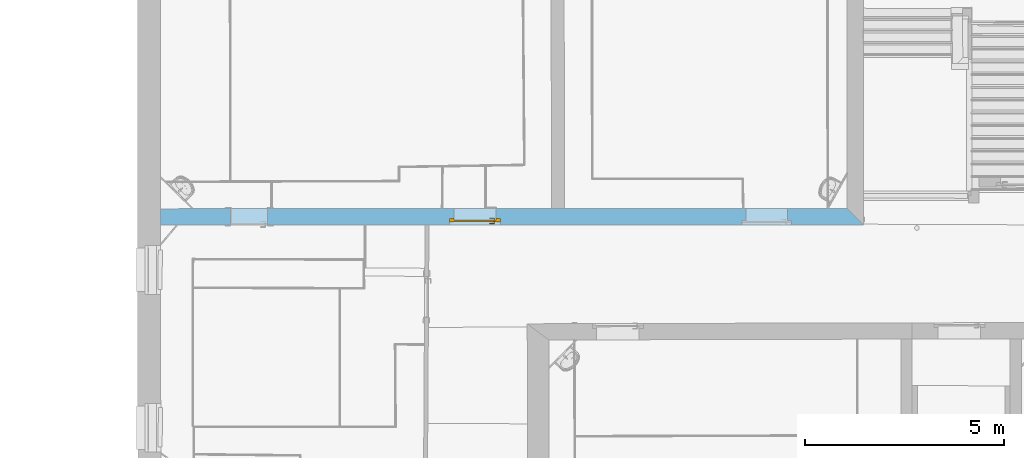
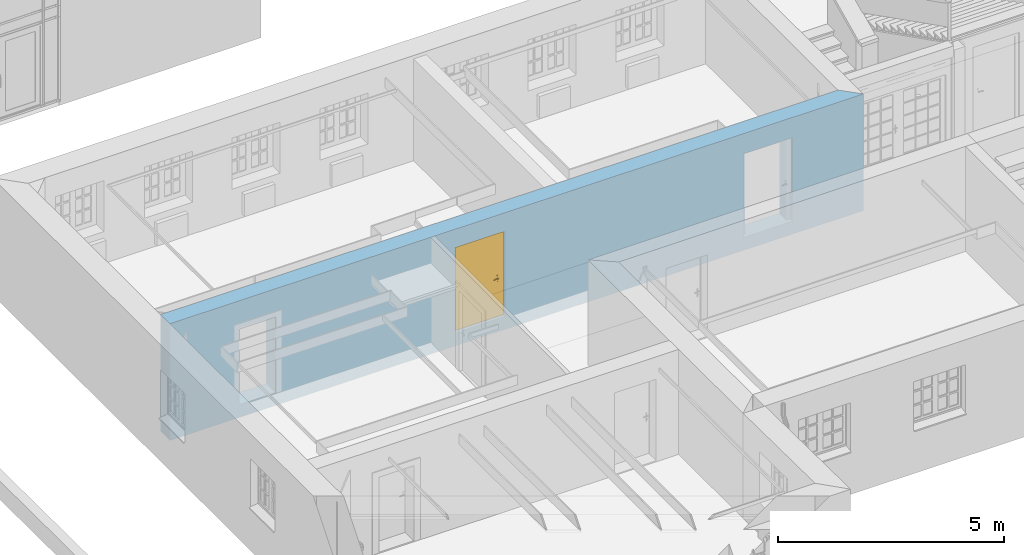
# One storey, part 74 of 196: 1 door, 3 openings, plus 1 element that does not belong to this part.
"""IFC2X3 building model written with IfcOpenShell, lengths in metres."""

from ifc_helpers import new_model, entity, si_unit, converted_unit, derived_unit, money_unit, direction, frame, origin_with_axes, origin_2d_with_axis, place, context, subcontext, project, spatial, polyline, rectangle, outline, extrude, faceted_brep, material, layer, layer_set, layer_usage, type_object, element, fill, save


model = new_model("IFC2X3")

# Units and contexts
model_context = context("Model", 3, precision=1e-05, world=origin_with_axes(), true_north=direction((0.0, 1.0)))
body_context = subcontext(model_context, "Body", "Model", "MODEL_VIEW")
ifc_project = project(units=[si_unit("LENGTHUNIT", "METRE"), si_unit("AREAUNIT", "SQUARE_METRE"), si_unit("VOLUMEUNIT", "CUBIC_METRE"), converted_unit("PLANEANGLEUNIT", "DEGREE", entity("IfcPlaneAngleMeasure", 0.0174532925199), si_unit("PLANEANGLEUNIT", "RADIAN"), dimensions=[0, 0, 0, 0, 0, 0, 0]), money_unit("EUR"), converted_unit("TIMEUNIT", "Year", entity("IfcTimeMeasure", 31556926.0), si_unit("TIMEUNIT", "SECOND"), dimensions=[0, 0, 1, 0, 0, 0, 0]), si_unit("MASSUNIT", "GRAM", prefix="KILO"), si_unit("THERMODYNAMICTEMPERATUREUNIT", "DEGREE_CELSIUS"), si_unit("LUMINOUSINTENSITYUNIT", "LUMEN"), si_unit("ENERGYUNIT", "JOULE", prefix="MEGA"), derived_unit("THERMALCONDUCTANCEUNIT", [(si_unit("POWERUNIT", "WATT"), 1), (si_unit("LENGTHUNIT", "METRE"), -1), (si_unit("THERMODYNAMICTEMPERATUREUNIT", "KELVIN"), -1)]), derived_unit("SPECIFICHEATCAPACITYUNIT", [(si_unit("ENERGYUNIT", "JOULE"), 1), (si_unit("MASSUNIT", "GRAM", prefix="KILO"), -1), (si_unit("THERMODYNAMICTEMPERATUREUNIT", "KELVIN"), -1)]), derived_unit("MASSDENSITYUNIT", [(si_unit("MASSUNIT", "GRAM", prefix="KILO"), 1), (si_unit("VOLUMEUNIT", "CUBIC_METRE"), -1)])], contexts=[model_context])

# Site, building, storey
site_placement = place(None, origin_with_axes())
site = spatial("IfcSite", under=ifc_project, at=site_placement, Name="Gelände", CompositionType="ELEMENT")
building_placement = place(site_placement, origin_with_axes())
building = spatial("IfcBuilding", under=site, at=building_placement, Name="Gebäude", CompositionType="ELEMENT")
storey_placement = place(building_placement, frame((0.0, 0.0, -3.0), z_axis=(0.0, 0.0, 1.0), x_axis=(1.0, 0.0, 0.0)))
storey = spatial("IfcBuildingStorey", under=building, at=storey_placement, Name="KELLERGESCHOSS", CompositionType="ELEMENT", Elevation=-3.0)

# Wall, openings, door
ifc_material = material(Name="05_ALLGEMEIN - TRAGENDE BAUTEILE")
ifc_layer = layer(ifc_material, 0.41, ventilated="UNKNOWN")
ifc_layer_set = layer_set([ifc_layer], Name="05_ALLGEMEIN - TRAGENDE BAUTEILE 0.41")
ifc_layer_usage = layer_usage(ifc_layer_set, "AXIS2", "POSITIVE", -0.41)
wall_type = type_object("IfcWallType", Name="05_ALLGEMEIN - TRAGENDE BAUTEILE 410", PredefinedType="ELEMENTEDWALL")
wall_placement = place(storey_placement, frame((-9.84148103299, 19.2659840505, -0.36), z_axis=(0.0, 0.0, 1.0), x_axis=(-0.999999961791, -0.000276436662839, 0.0)))
wall = element("IfcWallStandardCase", 1, at=wall_placement, inside=storey, type_object=wall_type, material=ifc_layer_usage, Name="Wand-036", ObjectType="ELEMENTEDWALL", context=body_context, shape_type="SweptSolid", body=[
    extrude(outline(polyline([(0.409925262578, -0.41), (17.7008366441, -0.41), (17.7005669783, 0.0), (0.0, 0.0), (0.409925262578, -0.41)])), origin_with_axes(), (0.0, 0.0, 1.0), 3.15),
])
opening_1_placement = place(wall_placement, frame((2.43435271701, 0.0, 0.34905591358), z_axis=(0.0, 0.0, 1.0), x_axis=(1.0, 0.0, 0.0)))
element("IfcOpeningElement", 2, at=opening_1_placement, cuts=wall, Name="Tür-022", context=body_context, shape_type="SweptSolid", body=[
    extrude(rectangle(XDim=1.05378116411, YDim=2.159205, at=origin_2d_with_axis()), frame((0.0, -0.11, 1.0796025), z_axis=(0.0, 1.0, 0.0), x_axis=(1.0, 0.0, 0.0)), (0.0, 0.0, -1.0), 0.71),
    extrude(rectangle(XDim=1.25378116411, YDim=2.259205, at=origin_2d_with_axis()), frame((0.0, -0.05, 1.1296025), z_axis=(0.0, -1.0, 0.0), x_axis=(1.0, 0.0, 0.0)), (0.0, 0.0, 1.0), 0.06),
    extrude(rectangle(XDim=1.25378116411, YDim=2.259205, at=origin_2d_with_axis()), frame((0.0, -0.05, 1.1296025), z_axis=(0.0, -1.0, 0.0), x_axis=(1.0, 0.0, 0.0)), (0.0, 0.0, -1.0), 0.46),
])
opening_2_placement = place(wall_placement, frame((9.78109364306, 0.0, 0.347304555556), z_axis=(0.0, 0.0, 1.0), x_axis=(1.0, 0.0, 0.0)))
opening_2 = element("IfcOpeningElement", 3, at=opening_2_placement, cuts=wall, Name="Tür-022", context=body_context, shape_type="SweptSolid", body=[
    extrude(rectangle(XDim=1.06444475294, YDim=2.200287, at=origin_2d_with_axis()), frame((0.0, -0.16, 1.1001435), z_axis=(0.0, 1.0, 0.0), x_axis=(1.0, 0.0, 0.0)), (0.0, 0.0, -1.0), 0.66),
    extrude(rectangle(XDim=1.28444475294, YDim=2.310287, at=origin_2d_with_axis()), frame((0.0, -0.08, 1.1551435), z_axis=(0.0, -1.0, 0.0), x_axis=(1.0, 0.0, 0.0)), (0.0, 0.0, -1.0), 0.49),
    extrude(rectangle(XDim=1.28444475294, YDim=2.310287, at=origin_2d_with_axis()), frame((0.0, -0.08, 1.1551435), z_axis=(0.0, -1.0, 0.0), x_axis=(1.0, 0.0, 0.0)), (0.0, 0.0, 1.0), 0.08),
])
opening_3_placement = place(wall_placement, frame((15.4703837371, 0.0, 0.347765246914), z_axis=(0.0, 0.0, 1.0), x_axis=(1.0, 0.0, 0.0)))
element("IfcOpeningElement", 4, at=opening_3_placement, cuts=wall, Name="Tür-022", context=body_context, shape_type="SweptSolid", body=[
    extrude(rectangle(XDim=0.929114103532, YDim=2.063068, at=origin_2d_with_axis()), frame((0.0, -0.41, 1.031534), z_axis=(0.0, 1.0, 0.0), x_axis=(1.0, 0.0, 0.0)), (0.0, 0.0, 1.0), 1.23),
])
door_style = type_object("IfcDoorStyle", Name="Blockrahmentür 1-Fl 25", ConstructionType="NOTDEFINED", OperationType="SINGLE_SWING_RIGHT", ParameterTakesPrecedence=False, Sizeable=False)
door_placement = place(opening_2_placement, frame((-0.532222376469, 0.0, 0.0), z_axis=(0.0, 0.0, 1.0), x_axis=(1.0, 0.0, 0.0)))
door = element("IfcDoor", 5, at=door_placement, inside=storey, type_object=door_style, Name="Tür-022", ObjectType="NOTDEFINED", OverallHeight=2.31029, OverallWidth=1.28444, context=body_context, shape_type="Brep", body=[
    faceted_brep([(1.17444475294, -0.16, 0.0), (1.17444475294, -0.12, 0.0), (1.17444475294, -0.12, 2.310287), (1.17444475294, -0.16, 2.310287), (1.06444475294, -0.16, 0.0), (1.06444475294, -0.12, 0.0), (1.06444475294, -0.12, 2.200287), (0.644322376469, -0.12, 2.200287), (0.532322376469, -0.12, 2.200287), (0.0, -0.12, 2.200287), (0.0, -0.12, 0.0), (-0.11, -0.12, 0.0), (-0.11, -0.12, 2.310287), (-0.11, -0.16, 2.310287), (-0.11, -0.16, 0.0), (0.0, -0.16, 0.0), (0.0, -0.16, 2.200287), (0.532322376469, -0.16, 2.200287), (0.644322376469, -0.16, 2.200287), (1.06444475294, -0.16, 2.200287)], [[[0, 1, 2, 3]], [[4, 5, 1, 0]], [[1, 5, 6, 7, 8, 9, 10, 11, 12, 2]], [[3, 2, 12, 13]], [[0, 3, 13, 14, 15, 16, 17, 18, 19, 4]], [[19, 6, 5, 4]], [[18, 7, 6, 19]], [[17, 8, 7, 18]], [[16, 9, 8, 17]], [[15, 10, 9, 16]], [[14, 11, 10, 15]], [[13, 12, 11, 14]]]),
    faceted_brep([(1.17444475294, -0.12, 0.0), (1.17444475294, -0.08, 0.0), (1.17444475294, -0.08, 2.310287), (1.17444475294, -0.12, 2.310287), (1.07644475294, -0.12, 0.0), (1.07644475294, -0.08, 0.0), (1.07644475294, -0.08, 2.212287), (0.632322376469, -0.08, 2.212287), (0.544322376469, -0.08, 2.212287), (-0.012, -0.08, 2.212287), (-0.012, -0.08, 0.0), (-0.11, -0.08, 0.0), (-0.11, -0.08, 2.310287), (-0.11, -0.12, 2.310287), (-0.11, -0.12, 0.0), (-0.012, -0.12, 0.0), (-0.012, -0.12, 2.212287), (0.544322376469, -0.12, 2.212287), (0.632322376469, -0.12, 2.212287), (1.07644475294, -0.12, 2.212287)], [[[0, 1, 2, 3]], [[4, 5, 1, 0]], [[1, 5, 6, 7, 8, 9, 10, 11, 12, 2]], [[3, 2, 12, 13]], [[0, 3, 13, 14, 15, 16, 17, 18, 19, 4]], [[19, 6, 5, 4]], [[18, 7, 6, 19]], [[17, 8, 7, 18]], [[16, 9, 8, 17]], [[15, 10, 9, 16]], [[14, 11, 10, 15]], [[13, 12, 11, 14]]]),
    faceted_brep([(1.07644475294, -0.084, 0.0), (-0.012, -0.084, 0.0), (-0.012, -0.084, 2.212287), (1.07644475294, -0.084, 2.212287), (1.07644475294, -0.12, 0.0), (-0.012, -0.12, 0.0), (-0.012, -0.12, 2.212287), (1.07644475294, -0.12, 2.212287)], [[[0, 1, 2, 3]], [[1, 0, 4, 5]], [[2, 1, 5, 6]], [[3, 2, 6, 7]], [[0, 3, 7, 4]], [[5, 4, 7, 6]]]),
    faceted_brep([(0.0432977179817, -0.16, 1.05647213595), (0.048, -0.16, 1.058), (0.048, -0.14, 1.058), (0.0432977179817, -0.14, 1.05647213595), (0.0403915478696, -0.16, 1.05247213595), (0.0403915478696, -0.16, 1.04752786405), (0.0432977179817, -0.16, 1.04352786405), (0.048, -0.16, 1.042), (0.0527022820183, -0.16, 1.04352786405), (0.0556084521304, -0.16, 1.04752786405), (0.0556084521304, -0.16, 1.05247213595), (0.0527022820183, -0.16, 1.05647213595), (0.0527022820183, -0.14, 1.05647213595), (0.048, -0.138, 1.06), (0.0421221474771, -0.138, 1.05809016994), (0.0403915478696, -0.14, 1.05247213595), (0.0403915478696, -0.14, 1.04752786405), (0.0432977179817, -0.14, 1.04352786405), (0.048, -0.14, 1.042), (0.0527022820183, -0.14, 1.04352786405), (0.0556084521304, -0.14, 1.04752786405), (0.0556084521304, -0.14, 1.05247213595), (0.0538778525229, -0.138, 1.05809016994), (0.048, -0.13, 1.06), (0.0421221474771, -0.13, 1.05809016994), (0.038489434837, -0.138, 1.05309016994), (0.038489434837, -0.138, 1.04690983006), (0.0421221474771, -0.138, 1.04190983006), (0.048, -0.138, 1.04), (0.0538778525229, -0.138, 1.04190983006), (0.057510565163, -0.138, 1.04690983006), (0.057510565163, -0.138, 1.05309016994), (0.0538778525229, -0.13, 1.05809016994), (0.0575105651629, -0.13, 1.05309016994), (0.0575105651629, -0.13, 1.04690983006), (0.0538778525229, -0.13, 1.04190983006), (0.048, -0.13, 1.04), (0.0421221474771, -0.13, 1.04190983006), (0.038489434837, -0.13, 1.04690983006), (0.038489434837, -0.13, 1.05309016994)], [[[0, 1, 2, 3]], [[1, 0, 4, 5, 6, 7, 8, 9, 10, 11]], [[1, 11, 12, 2]], [[3, 2, 13, 14]], [[4, 0, 3, 15]], [[5, 4, 15, 16]], [[6, 5, 16, 17]], [[7, 6, 17, 18]], [[8, 7, 18, 19]], [[9, 8, 19, 20]], [[10, 9, 20, 21]], [[11, 10, 21, 12]], [[2, 12, 22, 13]], [[14, 13, 23, 24]], [[15, 3, 14, 25]], [[16, 15, 25, 26]], [[17, 16, 26, 27]], [[18, 17, 27, 28]], [[19, 18, 28, 29]], [[20, 19, 29, 30]], [[21, 20, 30, 31]], [[12, 21, 31, 22]], [[13, 22, 32, 23]], [[23, 32, 33, 34, 35, 36, 37, 38, 39, 24]], [[25, 14, 24, 39]], [[26, 25, 39, 38]], [[27, 26, 38, 37]], [[28, 27, 37, 36]], [[29, 28, 36, 35]], [[30, 29, 35, 34]], [[31, 30, 34, 33]], [[22, 31, 33, 32]]]),
    faceted_brep([(0.0601883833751, -0.13, 1.11759695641), (0.0524435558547, -0.13, 1.12195567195), (0.0435564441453, -0.13, 1.12195567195), (0.0358116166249, -0.13, 1.11759695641), (0.0312, -0.13, 1.11), (0.0255, -0.13, 1.11), (0.0255, -0.13, 0.89), (0.0312, -0.13, 0.89), (0.0358116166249, -0.13, 0.882403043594), (0.0435564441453, -0.13, 0.878044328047), (0.0524435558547, -0.13, 0.878044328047), (0.0601883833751, -0.13, 0.882403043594), (0.0648, -0.13, 0.89), (0.0705, -0.13, 0.89), (0.0705, -0.13, 1.11), (0.0648, -0.13, 1.11), (0.048, -0.13, 0.967425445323), (0.0533751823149, -0.13, 0.965143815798), (0.0554678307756, -0.13, 0.959692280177), (0.053, -0.13, 0.9544), (0.053, -0.13, 0.9375), (0.0515355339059, -0.13, 0.933964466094), (0.048, -0.13, 0.9325), (0.0444644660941, -0.13, 0.933964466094), (0.043, -0.13, 0.9375), (0.043, -0.13, 0.9544), (0.0405321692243, -0.13, 0.959692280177), (0.042624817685, -0.13, 0.965143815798), (0.0601883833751, -0.12, 1.11759695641), (0.0524435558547, -0.12, 1.12195567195), (0.0435564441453, -0.12, 1.12195567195), (0.0358116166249, -0.12, 1.11759695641), (0.0312, -0.12, 1.11), (0.0255, -0.12, 1.11), (0.0255, -0.12, 0.89), (0.0312, -0.12, 0.89), (0.0358116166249, -0.12, 0.882403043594), (0.0435564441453, -0.12, 0.878044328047), (0.0524435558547, -0.12, 0.878044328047), (0.0601883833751, -0.12, 0.882403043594), (0.0648, -0.12, 0.89), (0.0705, -0.12, 0.89), (0.0705, -0.12, 1.11), (0.0648, -0.12, 1.11), (0.048, -0.12, 0.967425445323), (0.053375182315, -0.12, 0.965143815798), (0.0554678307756, -0.12, 0.959692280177), (0.053, -0.12, 0.9544), (0.053, -0.12, 0.9375), (0.0515355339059, -0.12, 0.933964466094), (0.048, -0.12, 0.9325), (0.0444644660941, -0.12, 0.933964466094), (0.043, -0.12, 0.9375), (0.043, -0.12, 0.9544), (0.0405321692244, -0.12, 0.959692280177), (0.042624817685, -0.12, 0.965143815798)], [[[0, 1, 2, 3, 4, 5, 6, 7, 8, 9, 10, 11, 12, 13, 14, 15], [16, 17, 18, 19, 20, 21, 22, 23, 24, 25, 26, 27]], [[1, 0, 28, 29]], [[2, 1, 29, 30]], [[3, 2, 30, 31]], [[4, 3, 31, 32]], [[5, 4, 32, 33]], [[6, 5, 33, 34]], [[7, 6, 34, 35]], [[8, 7, 35, 36]], [[9, 8, 36, 37]], [[10, 9, 37, 38]], [[11, 10, 38, 39]], [[12, 11, 39, 40]], [[13, 12, 40, 41]], [[14, 13, 41, 42]], [[15, 14, 42, 43]], [[0, 15, 43, 28]], [[17, 16, 44, 45]], [[18, 17, 45, 46]], [[19, 18, 46, 47]], [[19, 47, 48, 20]], [[20, 48, 49, 21]], [[21, 49, 50, 22]], [[22, 50, 51, 23]], [[23, 51, 52, 24]], [[53, 25, 24, 52]], [[26, 25, 53, 54]], [[27, 26, 54, 55]], [[16, 27, 55, 44]], [[40, 39, 38, 37, 36, 35, 34, 33, 32, 31, 30, 29, 28, 43, 42, 41], [54, 53, 52, 51, 50, 49, 48, 47, 46, 45, 44, 55]]]),
    faceted_brep([(0.162253, -0.16, 1.057158), (0.162253, -0.175, 1.057158), (0.162254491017, -0.175, 1.05719388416), (0.162254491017, -0.16, 1.05719388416), (0.135225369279, -0.16, 1.06432652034), (0.135225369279, -0.175, 1.06432652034), (0.107397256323, -0.175, 1.06706086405), (0.0794912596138, -0.175, 1.06529002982), (0.052232, -0.175, 1.05906), (0.0458294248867, -0.175, 1.05976125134), (0.0403273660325, -0.175, 1.05641280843), (0.0380084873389, -0.175, 1.05040385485), (0.0398348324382, -0.175, 1.04422735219), (0.0450486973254, -0.175, 1.04044577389), (0.0514869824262, -0.175, 1.04062800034), (0.0564786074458, -0.175, 1.04469843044), (0.056458, -0.175, 1.044666), (0.0817467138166, -0.175, 1.05019878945), (0.107589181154, -0.175, 1.05171460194), (0.133351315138, -0.175, 1.04917624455), (0.158401, -0.175, 1.042646), (0.163944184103, -0.175, 1.04356849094), (0.16730572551, -0.175, 1.04807159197), (0.166614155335, -0.175, 1.05364829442), (0.166614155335, -0.16, 1.05364829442), (0.16730572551, -0.16, 1.04807159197), (0.163944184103, -0.16, 1.04356849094), (0.158401, -0.16, 1.042646), (0.133351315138, -0.16, 1.04917624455), (0.107589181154, -0.16, 1.05171460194), (0.0817467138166, -0.16, 1.05019878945), (0.056458, -0.16, 1.044666), (0.0564786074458, -0.16, 1.04469843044), (0.0514869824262, -0.16, 1.04062800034), (0.0450486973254, -0.16, 1.04044577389), (0.0398348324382, -0.16, 1.04422735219), (0.0380084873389, -0.16, 1.05040385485), (0.0403273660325, -0.16, 1.05641280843), (0.0458294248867, -0.16, 1.05976125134), (0.052232, -0.16, 1.05906), (0.0794912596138, -0.16, 1.06529002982), (0.107397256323, -0.16, 1.06706086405)], [[[0, 1, 2, 3]], [[4, 5, 1, 0]], [[1, 5, 6, 7, 8, 9, 10, 11, 12, 13, 14, 15, 16, 17, 18, 19, 20, 21, 22, 23, 2]], [[3, 2, 23, 24]], [[0, 3, 24, 25, 26, 27, 28, 29, 30, 31, 32, 33, 34, 35, 36, 37, 38, 39, 40, 41, 4]], [[41, 6, 5, 4]], [[40, 7, 6, 41]], [[39, 8, 7, 40]], [[38, 9, 8, 39]], [[37, 10, 9, 38]], [[36, 11, 10, 37]], [[35, 12, 11, 36]], [[34, 13, 12, 35]], [[33, 14, 13, 34]], [[32, 15, 14, 33]], [[31, 16, 15, 32]], [[30, 17, 16, 31]], [[29, 18, 17, 30]], [[28, 19, 18, 29]], [[27, 20, 19, 28]], [[26, 21, 20, 27]], [[25, 22, 21, 26]], [[24, 23, 22, 25]]]),
    faceted_brep([(0.0432977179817, -0.044, 1.05647213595), (0.0432977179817, -0.064, 1.05647213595), (0.048, -0.064, 1.058), (0.048, -0.044, 1.058), (0.0403915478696, -0.044, 1.05247213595), (0.0403915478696, -0.064, 1.05247213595), (0.0421221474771, -0.066, 1.05809016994), (0.048, -0.066, 1.06), (0.0527022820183, -0.064, 1.05647213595), (0.0527022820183, -0.044, 1.05647213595), (0.0556084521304, -0.044, 1.05247213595), (0.0556084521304, -0.044, 1.04752786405), (0.0527022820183, -0.044, 1.04352786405), (0.048, -0.044, 1.042), (0.0432977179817, -0.044, 1.04352786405), (0.0403915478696, -0.044, 1.04752786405), (0.0403915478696, -0.064, 1.04752786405), (0.0384894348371, -0.066, 1.05309016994), (0.0421221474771, -0.074, 1.05809016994), (0.048, -0.074, 1.06), (0.0538778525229, -0.066, 1.05809016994), (0.0556084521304, -0.064, 1.05247213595), (0.0556084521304, -0.064, 1.04752786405), (0.0527022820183, -0.064, 1.04352786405), (0.048, -0.064, 1.042), (0.0432977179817, -0.064, 1.04352786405), (0.0384894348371, -0.066, 1.04690983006), (0.0384894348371, -0.074, 1.05309016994), (0.0384894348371, -0.074, 1.04690983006), (0.0421221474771, -0.074, 1.04190983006), (0.048, -0.074, 1.04), (0.0538778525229, -0.074, 1.04190983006), (0.0575105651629, -0.074, 1.04690983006), (0.0575105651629, -0.074, 1.05309016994), (0.0538778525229, -0.074, 1.05809016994), (0.0575105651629, -0.066, 1.05309016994), (0.0575105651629, -0.066, 1.04690983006), (0.0538778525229, -0.066, 1.04190983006), (0.048, -0.066, 1.04), (0.0421221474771, -0.066, 1.04190983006)], [[[0, 1, 2, 3]], [[4, 5, 1, 0]], [[1, 6, 7, 2]], [[3, 2, 8, 9]], [[3, 9, 10, 11, 12, 13, 14, 15, 4, 0]], [[15, 16, 5, 4]], [[5, 17, 6, 1]], [[6, 18, 19, 7]], [[2, 7, 20, 8]], [[9, 8, 21, 10]], [[10, 21, 22, 11]], [[11, 22, 23, 12]], [[12, 23, 24, 13]], [[13, 24, 25, 14]], [[14, 25, 16, 15]], [[16, 26, 17, 5]], [[17, 27, 18, 6]], [[19, 18, 27, 28, 29, 30, 31, 32, 33, 34]], [[7, 19, 34, 20]], [[8, 20, 35, 21]], [[21, 35, 36, 22]], [[22, 36, 37, 23]], [[23, 37, 38, 24]], [[24, 38, 39, 25]], [[25, 39, 26, 16]], [[26, 28, 27, 17]], [[39, 29, 28, 26]], [[38, 30, 29, 39]], [[37, 31, 30, 38]], [[36, 32, 31, 37]], [[35, 33, 32, 36]], [[20, 34, 33, 35]]]),
    faceted_brep([(0.0601883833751, -0.084, 1.11759695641), (0.0524435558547, -0.084, 1.12195567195), (0.0435564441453, -0.084, 1.12195567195), (0.0358116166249, -0.084, 1.11759695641), (0.0312, -0.084, 1.11), (0.0255, -0.084, 1.11), (0.0255, -0.084, 0.89), (0.0312, -0.084, 0.89), (0.0358116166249, -0.084, 0.882403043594), (0.0435564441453, -0.084, 0.878044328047), (0.0524435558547, -0.084, 0.878044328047), (0.0601883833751, -0.084, 0.882403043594), (0.0648, -0.084, 0.89), (0.0705, -0.084, 0.89), (0.0705, -0.084, 1.11), (0.0648, -0.084, 1.11), (0.048, -0.084, 0.967425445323), (0.053375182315, -0.084, 0.965143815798), (0.0554678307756, -0.084, 0.959692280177), (0.053, -0.084, 0.9544), (0.053, -0.084, 0.9375), (0.0515355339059, -0.084, 0.933964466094), (0.048, -0.084, 0.9325), (0.0444644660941, -0.084, 0.933964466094), (0.043, -0.084, 0.9375), (0.043, -0.084, 0.9544), (0.0405321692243, -0.084, 0.959692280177), (0.042624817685, -0.084, 0.965143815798), (0.0524435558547, -0.074, 1.12195567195), (0.0601883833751, -0.074, 1.11759695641), (0.0435564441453, -0.074, 1.12195567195), (0.0358116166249, -0.074, 1.11759695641), (0.0312, -0.074, 1.11), (0.0255, -0.074, 1.11), (0.0255, -0.074, 0.89), (0.0312, -0.074, 0.89), (0.0358116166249, -0.074, 0.882403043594), (0.0435564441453, -0.074, 0.878044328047), (0.0524435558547, -0.074, 0.878044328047), (0.0601883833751, -0.074, 0.882403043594), (0.0648, -0.074, 0.89), (0.0705, -0.074, 0.89), (0.0705, -0.074, 1.11), (0.0648, -0.074, 1.11), (0.048, -0.074, 0.967425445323), (0.053375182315, -0.074, 0.965143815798), (0.0554678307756, -0.074, 0.959692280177), (0.053, -0.074, 0.9544), (0.053, -0.074, 0.9375), (0.0515355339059, -0.074, 0.933964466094), (0.048, -0.074, 0.9325), (0.0444644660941, -0.074, 0.933964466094), (0.043, -0.074, 0.9375), (0.043, -0.074, 0.9544), (0.0405321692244, -0.074, 0.959692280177), (0.042624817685, -0.074, 0.965143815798)], [[[0, 1, 2, 3, 4, 5, 6, 7, 8, 9, 10, 11, 12, 13, 14, 15], [16, 17, 18, 19, 20, 21, 22, 23, 24, 25, 26, 27]], [[28, 1, 0, 29]], [[30, 2, 1, 28]], [[31, 3, 2, 30]], [[32, 4, 3, 31]], [[33, 5, 4, 32]], [[34, 6, 5, 33]], [[35, 7, 6, 34]], [[36, 8, 7, 35]], [[37, 9, 8, 36]], [[38, 10, 9, 37]], [[39, 11, 10, 38]], [[40, 12, 11, 39]], [[41, 13, 12, 40]], [[42, 14, 13, 41]], [[43, 15, 14, 42]], [[29, 0, 15, 43]], [[17, 16, 44, 45]], [[18, 17, 45, 46]], [[19, 18, 46, 47]], [[19, 47, 48, 20]], [[20, 48, 49, 21]], [[21, 49, 50, 22]], [[22, 50, 51, 23]], [[23, 51, 52, 24]], [[53, 25, 24, 52]], [[26, 25, 53, 54]], [[27, 26, 54, 55]], [[16, 27, 55, 44]], [[40, 39, 38, 37, 36, 35, 34, 33, 32, 31, 30, 28, 29, 43, 42, 41], [54, 53, 52, 51, 50, 49, 48, 47, 46, 45, 44, 55]]]),
    faceted_brep([(0.162253, -0.044, 1.057158), (0.162254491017, -0.044, 1.05719388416), (0.162254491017, -0.029, 1.05719388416), (0.162253, -0.029, 1.057158), (0.135225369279, -0.044, 1.06432652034), (0.107397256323, -0.044, 1.06706086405), (0.0794912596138, -0.044, 1.06529002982), (0.052232, -0.044, 1.05906), (0.0458294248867, -0.044, 1.05976125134), (0.0403273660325, -0.044, 1.05641280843), (0.0380084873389, -0.044, 1.05040385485), (0.0398348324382, -0.044, 1.04422735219), (0.0450486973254, -0.044, 1.04044577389), (0.0514869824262, -0.044, 1.04062800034), (0.0564786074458, -0.044, 1.04469843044), (0.056458, -0.044, 1.044666), (0.0817467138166, -0.044, 1.05019878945), (0.107589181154, -0.044, 1.05171460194), (0.133351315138, -0.044, 1.04917624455), (0.158401, -0.044, 1.042646), (0.163944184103, -0.044, 1.04356849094), (0.16730572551, -0.044, 1.04807159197), (0.166614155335, -0.044, 1.05364829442), (0.166614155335, -0.029, 1.05364829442), (0.16730572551, -0.029, 1.04807159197), (0.163944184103, -0.029, 1.04356849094), (0.158401, -0.029, 1.042646), (0.133351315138, -0.029, 1.04917624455), (0.107589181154, -0.029, 1.05171460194), (0.0817467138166, -0.029, 1.05019878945), (0.056458, -0.029, 1.044666), (0.0564786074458, -0.029, 1.04469843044), (0.0514869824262, -0.029, 1.04062800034), (0.0450486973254, -0.029, 1.04044577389), (0.0398348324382, -0.029, 1.04422735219), (0.0380084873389, -0.029, 1.05040385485), (0.0403273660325, -0.029, 1.05641280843), (0.0458294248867, -0.029, 1.05976125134), (0.052232, -0.029, 1.05906), (0.0794912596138, -0.029, 1.06529002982), (0.107397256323, -0.029, 1.06706086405), (0.135225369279, -0.029, 1.06432652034)], [[[0, 1, 2, 3]], [[0, 4, 5, 6, 7, 8, 9, 10, 11, 12, 13, 14, 15, 16, 17, 18, 19, 20, 21, 22, 1]], [[1, 22, 23, 2]], [[3, 2, 23, 24, 25, 26, 27, 28, 29, 30, 31, 32, 33, 34, 35, 36, 37, 38, 39, 40, 41]], [[4, 0, 3, 41]], [[5, 4, 41, 40]], [[6, 5, 40, 39]], [[7, 6, 39, 38]], [[8, 7, 38, 37]], [[9, 8, 37, 36]], [[10, 9, 36, 35]], [[11, 10, 35, 34]], [[12, 11, 34, 33]], [[13, 12, 33, 32]], [[14, 13, 32, 31]], [[15, 14, 31, 30]], [[16, 15, 30, 29]], [[17, 16, 29, 28]], [[18, 17, 28, 27]], [[19, 18, 27, 26]], [[20, 19, 26, 25]], [[21, 20, 25, 24]], [[22, 21, 24, 23]]]),
])
fill(opening_2, door)

save(model, "model.ifc")
